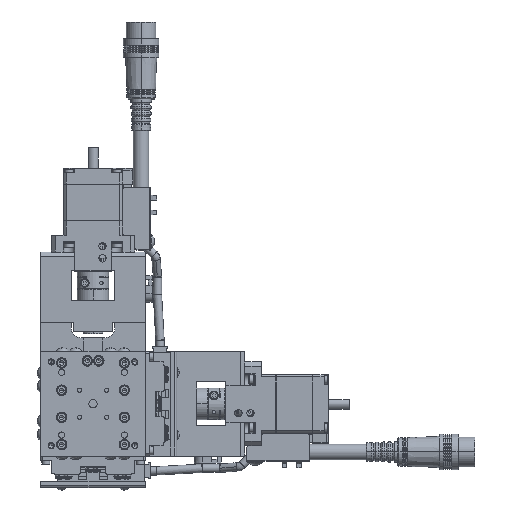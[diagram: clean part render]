
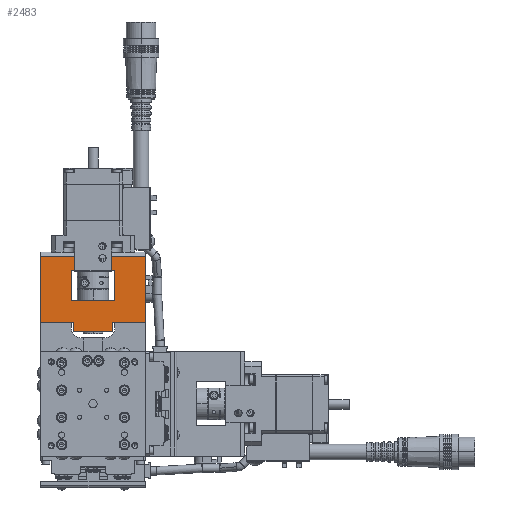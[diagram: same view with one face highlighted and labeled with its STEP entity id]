
A CAD part, top view. The second image highlights one B-rep face of the part: STEP entity #2483.
In plain terms, the highlighted planar face has unit normal (0, 0, 1).
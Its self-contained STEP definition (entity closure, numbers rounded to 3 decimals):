
#1362 = CARTESIAN_POINT ( 'NONE',  ( 39.248, 34.5, 144.061 ) ) ;
#1759 = EDGE_CURVE ( 'NONE', #63839, #48774, #18566, .T. ) ;
#2483 = ADVANCED_FACE ( 'NONE', ( #58149 ), #126754, .T. ) ;
#3544 = VERTEX_POINT ( 'NONE', #78138 ) ;
#3678 = EDGE_CURVE ( 'NONE', #74358, #87628, #18008, .T. ) ;
#7859 = DIRECTION ( 'NONE',  ( 0., 1., 0. ) ) ;
#8027 = CARTESIAN_POINT ( 'NONE',  ( 3.248, 0., 144.061 ) ) ;
#8100 = CARTESIAN_POINT ( 'NONE',  ( 34.748, 15.5, 144.061 ) ) ;
#8783 = CARTESIAN_POINT ( 'NONE',  ( 10.248, 14.5, 144.061 ) ) ;
#9071 = EDGE_CURVE ( 'NONE', #48578, #92021, #69274, .T. ) ;
#9678 = EDGE_CURVE ( 'NONE', #39926, #74358, #83507, .T. ) ;
#10657 = EDGE_CURVE ( 'NONE', #78887, #129850, #19513, .T. ) ;
#15248 = DIRECTION ( 'NONE',  ( 1., 0., 0. ) ) ;
#15878 = ORIENTED_EDGE ( 'NONE', *, *, #63901, .F. ) ;
#17099 = VECTOR ( 'NONE', #114825, 1000. ) ;
#17854 = ORIENTED_EDGE ( 'NONE', *, *, #26594, .F. ) ;
#18008 = LINE ( 'NONE', #70470, #89611 ) ;
#18461 = CARTESIAN_POINT ( 'NONE',  ( 10.248, 35.5, 144.061 ) ) ;
#18566 = LINE ( 'NONE', #31664, #121845 ) ;
#19306 = ORIENTED_EDGE ( 'NONE', *, *, #1759, .F. ) ;
#19513 = LINE ( 'NONE', #116441, #130829 ) ;
#19653 = VECTOR ( 'NONE', #111633, 1000. ) ;
#21080 = EDGE_CURVE ( 'NONE', #63839, #108879, #49181, .T. ) ;
#21695 = DIRECTION ( 'NONE',  ( 0., -1., 0. ) ) ;
#22220 = VERTEX_POINT ( 'NONE', #109600 ) ;
#23539 = CARTESIAN_POINT ( 'NONE',  ( 10.248, 33.7, 144.061 ) ) ;
#24300 = LINE ( 'NONE', #90075, #33902 ) ;
#26594 = EDGE_CURVE ( 'NONE', #50416, #87628, #119667, .T. ) ;
#26938 = ORIENTED_EDGE ( 'NONE', *, *, #10657, .F. ) ;
#28476 = ORIENTED_EDGE ( 'NONE', *, *, #42983, .F. ) ;
#30535 = CARTESIAN_POINT ( 'NONE',  ( 34.748, 50., 144.061 ) ) ;
#31664 = CARTESIAN_POINT ( 'NONE',  ( 36.998, 34.5, 144.061 ) ) ;
#33198 = EDGE_CURVE ( 'NONE', #117843, #80859, #96112, .T. ) ;
#33730 = CARTESIAN_POINT ( 'NONE',  ( 34.748, 0., 144.061 ) ) ;
#33902 = VECTOR ( 'NONE', #130423, 1000. ) ;
#39661 = EDGE_CURVE ( 'NONE', #117843, #48311, #101651, .T. ) ;
#39926 = VERTEX_POINT ( 'NONE', #108506 ) ;
#40618 = VECTOR ( 'NONE', #60640, 1000. ) ;
#41169 = ORIENTED_EDGE ( 'NONE', *, *, #60866, .T. ) ;
#42527 = EDGE_CURVE ( 'NONE', #92021, #48311, #84925, .T. ) ;
#42983 = EDGE_CURVE ( 'NONE', #48774, #50416, #24300, .T. ) ;
#44641 = ORIENTED_EDGE ( 'NONE', *, *, #42527, .T. ) ;
#45070 = EDGE_CURVE ( 'NONE', #22220, #39926, #59238, .T. ) ;
#45417 = CARTESIAN_POINT ( 'NONE',  ( 5.748, 16.3, 144.061 ) ) ;
#48311 = VERTEX_POINT ( 'NONE', #84698 ) ;
#48344 = VECTOR ( 'NONE', #21695, 1000. ) ;
#48578 = VERTEX_POINT ( 'NONE', #89069 ) ;
#48774 = VERTEX_POINT ( 'NONE', #1362 ) ;
#49181 = LINE ( 'NONE', #55881, #119122 ) ;
#50416 = VERTEX_POINT ( 'NONE', #112467 ) ;
#52403 = VECTOR ( 'NONE', #116395, 1000. ) ;
#53834 = DIRECTION ( 'NONE',  ( 1., 0., 0. ) ) ;
#54720 = DIRECTION ( 'NONE',  ( -1., 0., 0. ) ) ;
#55629 = DIRECTION ( 'NONE',  ( 1., 0., 0. ) ) ;
#55881 = CARTESIAN_POINT ( 'NONE',  ( 34.748, 43.75, 144.061 ) ) ;
#57748 = VECTOR ( 'NONE', #88980, 1000. ) ;
#58149 = FACE_OUTER_BOUND ( 'NONE', #89309, .T. ) ;
#59238 = LINE ( 'NONE', #8027, #87959 ) ;
#60640 = DIRECTION ( 'NONE',  ( 1., 0., 0. ) ) ;
#60802 = ORIENTED_EDGE ( 'NONE', *, *, #45070, .T. ) ;
#60866 = EDGE_CURVE ( 'NONE', #3544, #129850, #90709, .T. ) ;
#63839 = VERTEX_POINT ( 'NONE', #123142 ) ;
#63901 = EDGE_CURVE ( 'NONE', #22220, #80859, #110100, .T. ) ;
#65191 = ORIENTED_EDGE ( 'NONE', *, *, #3678, .T. ) ;
#65239 = AXIS2_PLACEMENT_3D ( 'NONE', #76608, #88163, #15248 ) ;
#69047 = CARTESIAN_POINT ( 'NONE',  ( 10.248, 33.7, 144.061 ) ) ;
#69274 = LINE ( 'NONE', #18461, #40618 ) ;
#70470 = CARTESIAN_POINT ( 'NONE',  ( 34.748, 43.75, 144.061 ) ) ;
#70616 = ORIENTED_EDGE ( 'NONE', *, *, #9071, .T. ) ;
#73390 = DIRECTION ( 'NONE',  ( 1., 0., 0. ) ) ;
#74358 = VERTEX_POINT ( 'NONE', #33730 ) ;
#75171 = CARTESIAN_POINT ( 'NONE',  ( 3.248, 33.7, 144.061 ) ) ;
#76334 = CARTESIAN_POINT ( 'NONE',  ( 24.248, 35.5, 144.061 ) ) ;
#76608 = CARTESIAN_POINT ( 'NONE',  ( 10.248, 50., 144.061 ) ) ;
#78138 = CARTESIAN_POINT ( 'NONE',  ( 3.248, 50., 144.061 ) ) ;
#78466 = ORIENTED_EDGE ( 'NONE', *, *, #21080, .T. ) ;
#78775 = CARTESIAN_POINT ( 'NONE',  ( 36.998, 15.5, 144.061 ) ) ;
#78887 = VERTEX_POINT ( 'NONE', #69047 ) ;
#80859 = VERTEX_POINT ( 'NONE', #106775 ) ;
#81150 = ORIENTED_EDGE ( 'NONE', *, *, #33198, .T. ) ;
#81541 = VECTOR ( 'NONE', #53834, 1000. ) ;
#82673 = CARTESIAN_POINT ( 'NONE',  ( 24.248, 43.75, 144.061 ) ) ;
#83338 = ORIENTED_EDGE ( 'NONE', *, *, #39661, .F. ) ;
#83507 = LINE ( 'NONE', #116468, #104125 ) ;
#84698 = CARTESIAN_POINT ( 'NONE',  ( 24.248, 14.5, 144.061 ) ) ;
#84925 = LINE ( 'NONE', #82673, #48344 ) ;
#87628 = VERTEX_POINT ( 'NONE', #8100 ) ;
#87959 = VECTOR ( 'NONE', #129755, 1000. ) ;
#88163 = DIRECTION ( 'NONE',  ( 0., 0., 1. ) ) ;
#88980 = DIRECTION ( 'NONE',  ( -1., 0., 0. ) ) ;
#89069 = CARTESIAN_POINT ( 'NONE',  ( 10.248, 35.5, 144.061 ) ) ;
#89309 = EDGE_LOOP ( 'NONE', ( #90927, #41169, #26938, #119214, #70616, #44641, #83338, #81150, #15878, #60802, #92865, #65191, #17854, #28476, #19306, #78466 ) ) ;
#89611 = VECTOR ( 'NONE', #7859, 1000. ) ;
#90075 = CARTESIAN_POINT ( 'NONE',  ( 39.248, 25., 144.061 ) ) ;
#90323 = CARTESIAN_POINT ( 'NONE',  ( 10.248, 0., 144.061 ) ) ;
#90709 = LINE ( 'NONE', #124940, #95415 ) ;
#90927 = ORIENTED_EDGE ( 'NONE', *, *, #92412, .F. ) ;
#92021 = VERTEX_POINT ( 'NONE', #76334 ) ;
#92412 = EDGE_CURVE ( 'NONE', #3544, #108879, #96727, .T. ) ;
#92865 = ORIENTED_EDGE ( 'NONE', *, *, #9678, .T. ) ;
#95415 = VECTOR ( 'NONE', #125368, 1000. ) ;
#96112 = LINE ( 'NONE', #90323, #19653 ) ;
#96727 = LINE ( 'NONE', #112682, #17099 ) ;
#101651 = LINE ( 'NONE', #8783, #108008 ) ;
#104125 = VECTOR ( 'NONE', #55629, 1000. ) ;
#106775 = CARTESIAN_POINT ( 'NONE',  ( 10.248, 16.3, 144.061 ) ) ;
#108008 = VECTOR ( 'NONE', #110591, 1000. ) ;
#108506 = CARTESIAN_POINT ( 'NONE',  ( 3.248, 0., 144.061 ) ) ;
#108670 = EDGE_CURVE ( 'NONE', #78887, #48578, #119191, .T. ) ;
#108879 = VERTEX_POINT ( 'NONE', #30535 ) ;
#109600 = CARTESIAN_POINT ( 'NONE',  ( 3.248, 16.3, 144.061 ) ) ;
#110100 = LINE ( 'NONE', #45417, #81541 ) ;
#110591 = DIRECTION ( 'NONE',  ( 1., 0., 0. ) ) ;
#110833 = CARTESIAN_POINT ( 'NONE',  ( 10.248, 14.5, 144.061 ) ) ;
#111633 = DIRECTION ( 'NONE',  ( 0., 1., 0. ) ) ;
#112467 = CARTESIAN_POINT ( 'NONE',  ( 39.248, 15.5, 144.061 ) ) ;
#112682 = CARTESIAN_POINT ( 'NONE',  ( 10.248, 50., 144.061 ) ) ;
#114825 = DIRECTION ( 'NONE',  ( 1., 0., 0. ) ) ;
#116395 = DIRECTION ( 'NONE',  ( 0., 1., 0. ) ) ;
#116441 = CARTESIAN_POINT ( 'NONE',  ( 5.748, 33.7, 144.061 ) ) ;
#116468 = CARTESIAN_POINT ( 'NONE',  ( 10.248, 0., 144.061 ) ) ;
#117843 = VERTEX_POINT ( 'NONE', #110833 ) ;
#119122 = VECTOR ( 'NONE', #126899, 1000. ) ;
#119191 = LINE ( 'NONE', #23539, #52403 ) ;
#119214 = ORIENTED_EDGE ( 'NONE', *, *, #108670, .T. ) ;
#119667 = LINE ( 'NONE', #78775, #57748 ) ;
#121845 = VECTOR ( 'NONE', #73390, 1000. ) ;
#123142 = CARTESIAN_POINT ( 'NONE',  ( 34.748, 34.5, 144.061 ) ) ;
#124940 = CARTESIAN_POINT ( 'NONE',  ( 3.248, 33.7, 144.061 ) ) ;
#125368 = DIRECTION ( 'NONE',  ( 0., -1., 0. ) ) ;
#126754 = PLANE ( 'NONE',  #65239 ) ;
#126899 = DIRECTION ( 'NONE',  ( 0., 1., 0. ) ) ;
#129755 = DIRECTION ( 'NONE',  ( 0., -1., 0. ) ) ;
#129850 = VERTEX_POINT ( 'NONE', #75171 ) ;
#130423 = DIRECTION ( 'NONE',  ( 0., -1., 0. ) ) ;
#130829 = VECTOR ( 'NONE', #54720, 1000. ) ;
